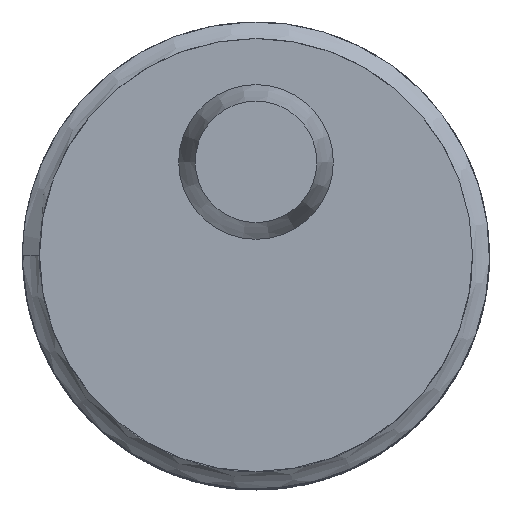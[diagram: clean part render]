
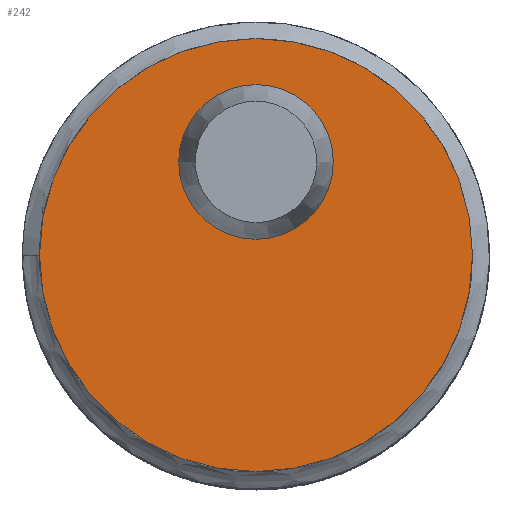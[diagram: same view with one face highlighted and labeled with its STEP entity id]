
A CAD part, top view. The second image highlights one B-rep face of the part: STEP entity #242.
In plain terms, the highlighted planar face has unit normal (0, 0, 1).
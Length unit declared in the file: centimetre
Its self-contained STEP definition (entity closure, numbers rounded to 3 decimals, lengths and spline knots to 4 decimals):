
#151=VERTEX_POINT('',#4707);
#152=VERTEX_POINT('',#4710);
#166=EDGE_CURVE('',#151,#151,#495,.T.);
#167=EDGE_CURVE('',#152,#152,#496,.T.);
#196=ORIENTED_EDGE('',*,*,#166,.T.);
#197=ORIENTED_EDGE('',*,*,#167,.F.);
#213=EDGE_LOOP('',(#196));
#214=EDGE_LOOP('',(#197));
#230=FACE_BOUND('',#213,.T.);
#231=FACE_BOUND('',#214,.T.);
#242=ADVANCED_FACE('',(#230,#231),#680,.T.);
#495=CIRCLE('',#628,0.4);
#496=CIRCLE('',#630,1.4);
#628=AXIS2_PLACEMENT_3D('',#4706,#805,#806);
#630=AXIS2_PLACEMENT_3D('',#4709,#809,#810);
#632=AXIS2_PLACEMENT_3D('',#4713,#813,$);
#680=PLANE('',#632);
#805=DIRECTION('',(0.,0.,-1.));
#806=DIRECTION('',(0.4,0.,0.));
#809=DIRECTION('',(0.,0.,-1.));
#810=DIRECTION('',(1.4,0.,0.));
#813=DIRECTION('',(0.,0.,1.));
#4706=CARTESIAN_POINT('',(0.,0.6,7.5));
#4707=CARTESIAN_POINT('',(0.4,0.6,7.5));
#4709=CARTESIAN_POINT('',(0.,0.,7.5));
#4710=CARTESIAN_POINT('',(1.4,0.,7.5));
#4713=CARTESIAN_POINT('',(0.,0.,7.5));
